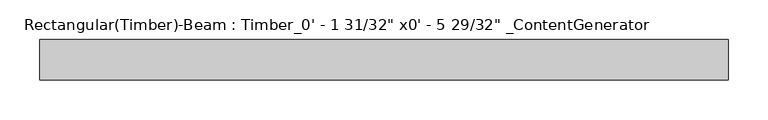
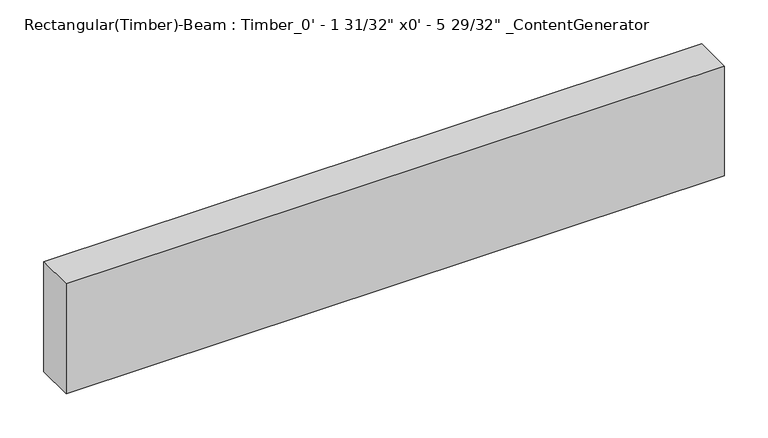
"""IFC4 building model written with IfcOpenShell, lengths in millimetres: beam geometry."""

from ifc_helpers import new_model, si_unit, frame, origin, place, context, project, spatial, polyline, outline, extrude, source, transform, mapped, element, save


def beam_fe6cf38c(model_context):
    return source(origin(), model_context, "Body", "SweptSolid", [
        extrude(outline(polyline([(444.5, 25.4), (444.5, -25.4), (-419.1, -25.4), (-419.1, 25.4), (444.5, 25.4)])), frame((0.0, 0.0, -76.2), z_axis=(0.0, 0.0, 1.0), x_axis=(1.0, 0.0, 0.0)), (0.0, 0.0, 1.0), 152.4),
    ])


if __name__ == "__main__":
    model = new_model("IFC4")
    model_context = context("Model", 3, world=origin())
    ifc_project = project(units=[si_unit("LENGTHUNIT", "METRE", prefix="MILLI")], contexts=[model_context])
    site = spatial("IfcSite", under=ifc_project)
    building = spatial("IfcBuilding", under=site)
    placement = place(None, origin())
    beam_shape = beam_fe6cf38c(model_context)
    element("IfcBeam", 1, ObjectType="Rectangular(Timber)-Beam : Timber_0' - 1 31/32\" x0' - 5 29/32\" _ContentGenerator", at=placement, inside=building, context=model_context, shape_type="MappedRepresentation", body=[
        mapped(beam_shape, transform((0.0, 0.0, 0.0), x_axis=(1.0, 0.0, 0.0), y_axis=(0.0, 1.0, 0.0), z_axis=(0.0, 0.0, 1.0))),
    ])
    save(model, "model.ifc")
